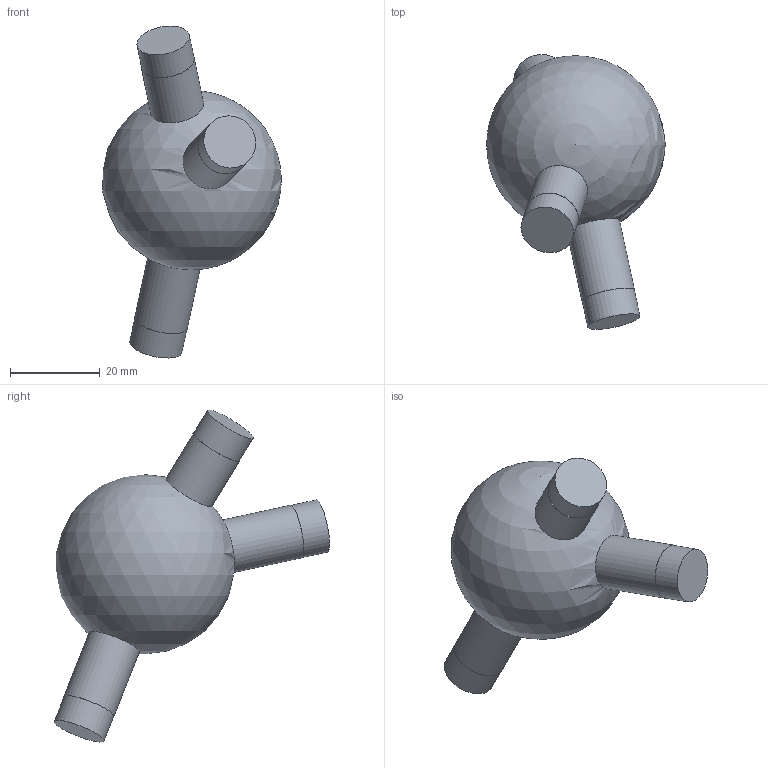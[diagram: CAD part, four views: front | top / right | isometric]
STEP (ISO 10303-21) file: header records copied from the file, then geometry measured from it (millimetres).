
FILE_DESCRIPTION(('Open CASCADE Model'),'2;1');
FILE_NAME('Open CASCADE Shape Model','2026-10-21T12:47:57',('Author'),( 'Open CASCADE'),'Open CASCADE STEP processor 7.9','Open CASCADE 7.9' ,'Unknown');
FILE_SCHEMA(('AUTOMOTIVE_DESIGN { 1 0 10303 214 1 1 1 1 }'));
Length unit declared in the file: millimetre
Products named in the file (1): Open CASCADE STEP translator 7.9 97
Bounding box: 39.85 x 61.4 x 74.07 mm (x, y, z)
Volume: 40323.6 mm3; surface area: 7347.8 mm2
Topology: 1 solids, 1 shells, 13 faces, 21 edges, 14 vertices
Faces by surface type: cylinder 6, plane 6, sphere 1
Full cylindrical faces by diameter (mm): 11.9 x3, 12 x3
Entity records: 781 total; most frequent: CARTESIAN_POINT 336, DIRECTION 91, ORIENTED_EDGE 36, PCURVE 36, DEFINITIONAL_REPRESENTATION 36, LINE 30, VECTOR 30, AXIS2_PLACEMENT_3D 26
